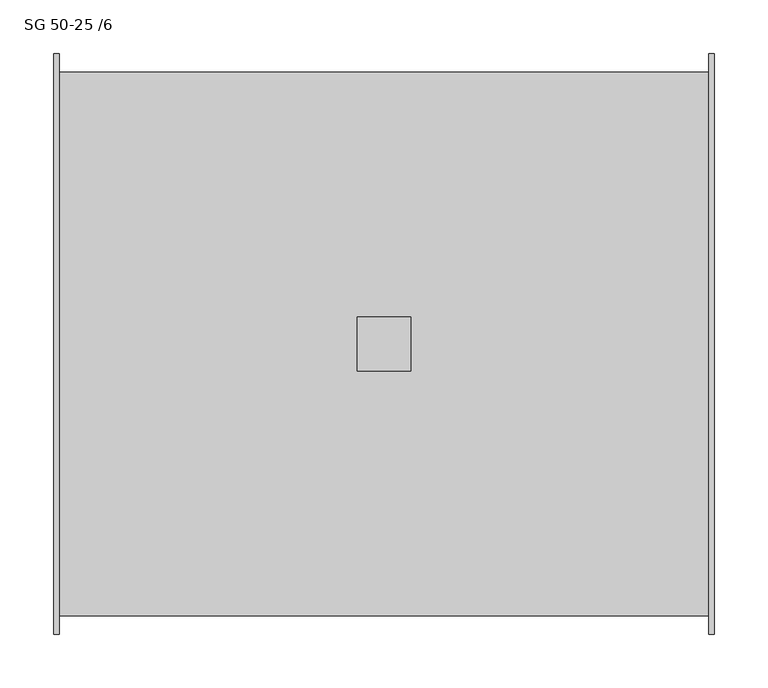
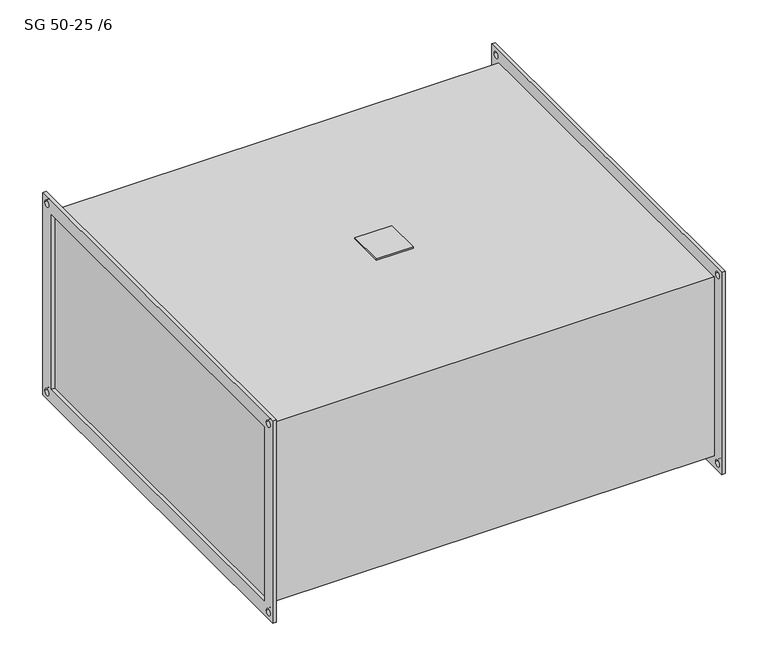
"""IFC4 building model written with IfcOpenShell, lengths in millimetres: damper geometry, KORF_Шумоглушитель_SG : SG 50-25 /6."""

from ifc_helpers import new_model, si_unit, point, frame, frame_2d, origin, place, context, project, spatial, polyline, circle_curve, trimmed, segment, composite_curve, outline, extrude, source, transform, mapped, element, save


def sg_50_25_6_c3226699(model_context):
    return source(origin(), model_context, "Body", "SweptSolid", [
        extrude(outline(polyline([(282.0, -25.0), (282.0, 25.0), (332.0, 25.0), (332.0, -25.0), (282.0, -25.0)])), frame((0.0, 0.0, 128.0), z_axis=(0.0, 0.0, 1.0), x_axis=(1.0, 0.0, 0.0)), (0.0, 0.0, 1.0), 2.0),
        extrude(outline(polyline([(-270.0, 145.0), (270.0, 145.0), (270.0, -145.0), (-270.0, -145.0), (-270.0, 145.0)]), holes=[polyline([(-250.0, 125.0), (-250.0, -125.0), (250.0, -125.0), (250.0, 125.0), (-250.0, 125.0)]), composite_curve([segment(trimmed(circle_curve(frame_2d((260.0, 135.0)), 4.5), [point((255.5, 135.0))], [point((264.5, 135.0))], True, "CARTESIAN"), True, "CONTINUOUS"), segment(trimmed(circle_curve(frame_2d((260.0, 135.0)), 4.5), [point((264.5, 135.0))], [point((255.5, 135.0))], True, "CARTESIAN"), True, "CONTINUOUS")], self_intersect=False), composite_curve([segment(trimmed(circle_curve(frame_2d((-260.0, 135.0)), 4.5), [point((-264.5, 135.0))], [point((-255.5, 135.0))], True, "CARTESIAN"), True, "CONTINUOUS"), segment(trimmed(circle_curve(frame_2d((-260.0, 135.0)), 4.5), [point((-255.5, 135.0))], [point((-264.5, 135.0))], True, "CARTESIAN"), True, "CONTINUOUS")], self_intersect=False), composite_curve([segment(trimmed(circle_curve(frame_2d((-260.0, -135.0)), 4.5), [point((-264.5, -135.0))], [point((-255.5, -135.0))], True, "CARTESIAN"), True, "CONTINUOUS"), segment(trimmed(circle_curve(frame_2d((-260.0, -135.0)), 4.5), [point((-255.5, -135.0))], [point((-264.5, -135.0))], True, "CARTESIAN"), True, "CONTINUOUS")], self_intersect=False), composite_curve([segment(trimmed(circle_curve(frame_2d((260.0, -135.0)), 4.5), [point((255.5, -135.0))], [point((264.5, -135.0))], True, "CARTESIAN"), True, "CONTINUOUS"), segment(trimmed(circle_curve(frame_2d((260.0, -135.0)), 4.5), [point((264.5, -135.0))], [point((255.5, -135.0))], True, "CARTESIAN"), True, "CONTINUOUS")], self_intersect=False)]), frame((609.0, 0.0, 0.0), z_axis=(1.0, 0.0, 0.0), x_axis=(0.0, 1.0, 0.0)), (0.0, 0.0, 1.0), 5.0),
        extrude(outline(polyline([(-270.0, 145.0), (270.0, 145.0), (270.0, -145.0), (-270.0, -145.0), (-270.0, 145.0)]), holes=[polyline([(-250.0, 125.0), (-250.0, -125.0), (250.0, -125.0), (250.0, 125.0), (-250.0, 125.0)]), composite_curve([segment(trimmed(circle_curve(frame_2d((260.0, 135.0)), 4.5), [point((255.5, 135.0))], [point((264.5, 135.0))], True, "CARTESIAN"), True, "CONTINUOUS"), segment(trimmed(circle_curve(frame_2d((260.0, 135.0)), 4.5), [point((264.5, 135.0))], [point((255.5, 135.0))], True, "CARTESIAN"), True, "CONTINUOUS")], self_intersect=False), composite_curve([segment(trimmed(circle_curve(frame_2d((-260.0, 135.0)), 4.5), [point((-264.5, 135.0))], [point((-255.5, 135.0))], True, "CARTESIAN"), True, "CONTINUOUS"), segment(trimmed(circle_curve(frame_2d((-260.0, 135.0)), 4.5), [point((-255.5, 135.0))], [point((-264.5, 135.0))], True, "CARTESIAN"), True, "CONTINUOUS")], self_intersect=False), composite_curve([segment(trimmed(circle_curve(frame_2d((-260.0, -135.0)), 4.5), [point((-264.5, -135.0))], [point((-255.5, -135.0))], True, "CARTESIAN"), True, "CONTINUOUS"), segment(trimmed(circle_curve(frame_2d((-260.0, -135.0)), 4.5), [point((-255.5, -135.0))], [point((-264.5, -135.0))], True, "CARTESIAN"), True, "CONTINUOUS")], self_intersect=False), composite_curve([segment(trimmed(circle_curve(frame_2d((260.0, -135.0)), 4.5), [point((255.5, -135.0))], [point((264.5, -135.0))], True, "CARTESIAN"), True, "CONTINUOUS"), segment(trimmed(circle_curve(frame_2d((260.0, -135.0)), 4.5), [point((264.5, -135.0))], [point((255.5, -135.0))], True, "CARTESIAN"), True, "CONTINUOUS")], self_intersect=False)]), frame((0.0, 0.0, 0.0), z_axis=(1.0, 0.0, 0.0), x_axis=(0.0, 1.0, 0.0)), (0.0, 0.0, 1.0), 5.0),
        extrude(outline(polyline([(609.0, 253.0), (609.0, -253.0), (5.0, -253.0), (5.0, 253.0), (609.0, 253.0)])), frame((0.0, 0.0, -128.0), z_axis=(0.0, 0.0, 1.0), x_axis=(1.0, 0.0, 0.0)), (0.0, 0.0, 1.0), 256.0),
    ])


if __name__ == "__main__":
    model = new_model("IFC4")
    model_context = context("Model", 3, world=origin())
    ifc_project = project(units=[si_unit("LENGTHUNIT", "METRE", prefix="MILLI")], contexts=[model_context])
    site = spatial("IfcSite", under=ifc_project)
    building = spatial("IfcBuilding", under=site)
    placement = place(None, origin())
    sg_50_25_6_shape = sg_50_25_6_c3226699(model_context)
    element("IfcDamper", 1, ObjectType="KORF_Шумоглушитель_SG : SG 50-25 /6", at=placement, inside=building, context=model_context, shape_type="MappedRepresentation", body=[
        mapped(sg_50_25_6_shape, transform((0.0, 0.0, 0.0), x_axis=(1.0, 0.0, 0.0), y_axis=(0.0, 1.0, 0.0), z_axis=(0.0, 0.0, 1.0))),
    ])
    save(model, "model.ifc")
